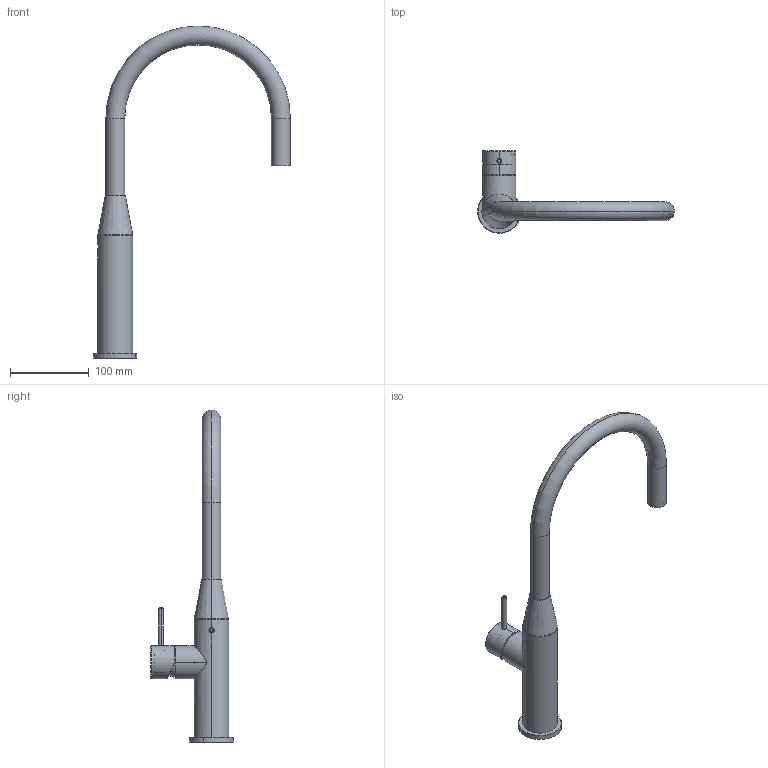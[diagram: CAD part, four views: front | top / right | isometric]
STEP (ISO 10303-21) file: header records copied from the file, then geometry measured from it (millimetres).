
FILE_DESCRIPTION (( 'STEP AP203' ), '1' );
FILE_NAME ('KT36.STEP', '2020-09-09T08:32:43', ( '' ), ( '' ), 'SwSTEP 2.0', 'SolidWorks 2020', '' );
FILE_SCHEMA (( 'CONFIG_CONTROL_DESIGN' ));
Length unit declared in the file: millimetre
Products named in the file (24): GRANCO M5x6 ACCIAIO; CAPPMA371501; CARTK_25; EU0265_0; EU0278_0; AERATORE M 21,5 x1; VITETC3X14; OR1394262ACS; EU0263_1; GKEROX25_0; EU0268_0; EU1078_0; KT36; EU0120_0; CARTNUB001; OR2507262NBR; EU0923_2; C47.00.0023.01; EU1077_0; OR1717178ACS; EU1587_0; GRANCO M4x5 ACCIAIO; EU1172_0; EU0927_0
Assembly tree (25 placements, depth 3):
  KT36
    EU1077_0
    EU1172_0
    EU0927_0
    EU0923_2
    EU0278_0
    EU0268_0
    EU0263_1
    OR1717178ACS
    EU0265_0
    OR1394262ACS  x2
    AERATORE M 21,5 x1
    EU1078_0
    CARTNUB001
      CARTK_25
      GKEROX25_0
    EU0120_0
    CAPPMA371501
    GRANCO M5x6 ACCIAIO
    VITETC3X14  x2
    EU1587_0
    OR2507262NBR
    GRANCO M4x5 ACCIAIO
    C47.00.0023.01
Bounding box: 249.48 x 104.48 x 421 mm (x, y, z)
Volume: 325757.6 mm3; surface area: 171506.2 mm2
Topology: 24 solids, 25 shells, 713 faces, 1663 edges, 1026 vertices
Faces by surface type: cylinder 286, plane 234, cone 127, torus 60, bspline 6
Entity records: 23529 total; most frequent: CARTESIAN_POINT 5057, DIRECTION 3573, ORIENTED_EDGE 3122, EDGE_CURVE 1561, AXIS2_PLACEMENT_3D 1440, VERTEX_POINT 984, EDGE_LOOP 779, CIRCLE 738
